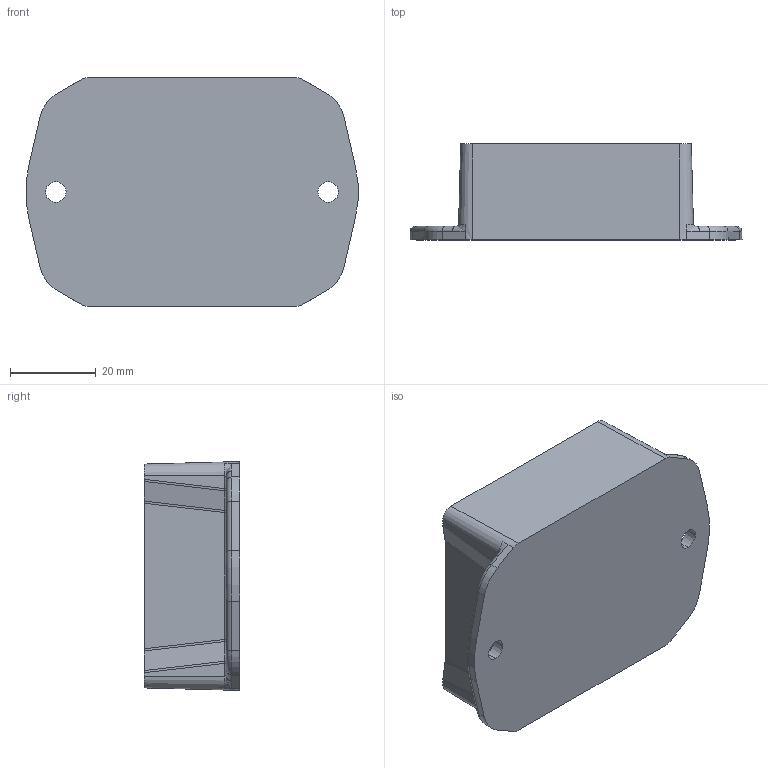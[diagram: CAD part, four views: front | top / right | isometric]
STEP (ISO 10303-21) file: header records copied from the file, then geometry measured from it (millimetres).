
FILE_DESCRIPTION (( 'STEP AP214' ), '1' );
FILE_NAME ('BX-2208BXX.STEP', '2013-09-12T13:53:09', ( 'Designer2010' ), ( '' ), 'SwSTEP 2.0', 'SolidWorks 2013', '' );
FILE_SCHEMA (( 'AUTOMOTIVE_DESIGN' ));
Length unit declared in the file: inch
Products named in the file (1): BX-2208BXX
Bounding box: 77.41 x 22.35 x 53.37 mm (x, y, z)
Volume: 17904.8 mm3; surface area: 15933 mm2
Topology: 1 solids, 1 shells, 99 faces, 278 edges, 182 vertices
Faces by surface type: cylinder 34, plane 29, bspline 16, cone 14, torus 6
Entity records: 8361 total; most frequent: CARTESIAN_POINT 4958, ORIENTED_EDGE 556, DIRECTION 430, EDGE_CURVE 278, VERTEX_POINT 182, AXIS2_PLACEMENT_3D 154, LINE 122, VECTOR 122
